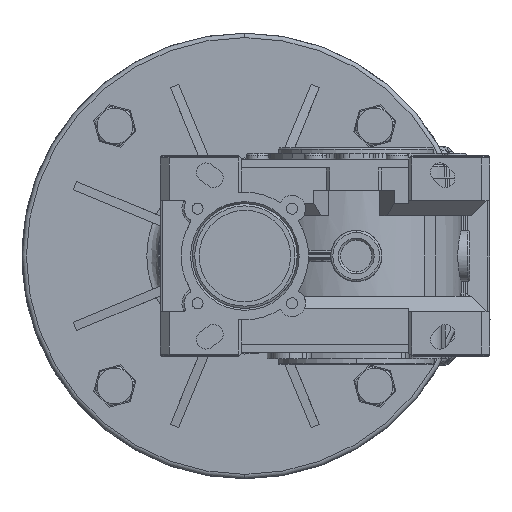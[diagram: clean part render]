
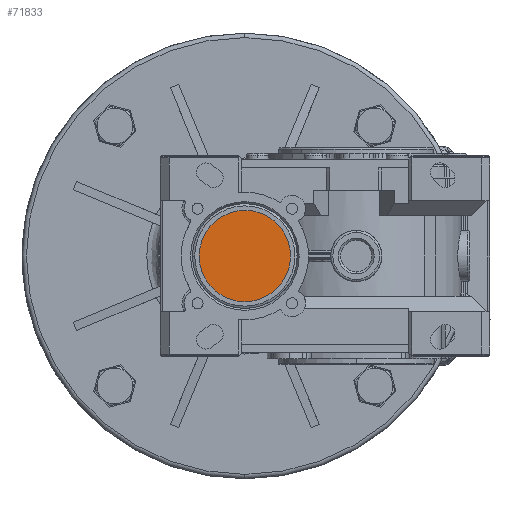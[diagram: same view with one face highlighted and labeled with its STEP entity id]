
A CAD part, left-side view. The second image highlights one B-rep face of the part: STEP entity #71833.
In plain terms, the highlighted planar face has unit normal (-1, 0, 0) as drawn and (0, 0, -1) by its records, which use the part's own axes.
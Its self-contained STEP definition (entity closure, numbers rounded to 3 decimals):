
#71345=CARTESIAN_POINT('',(8.848,4.007,0.5));
#71346=VERTEX_POINT('',#71345);
#71355=CARTESIAN_POINT('',(-32.152,4.007,0.5));
#71356=VERTEX_POINT('',#71355);
#71357=CARTESIAN_POINT('',(-11.652,4.007,0.5));
#71358=DIRECTION('',(0.0,0.0,-1.0));
#71359=DIRECTION('',(1.0,0.0,0.0));
#71360=AXIS2_PLACEMENT_3D('',#71357,#71358,#71359);
#71361=CIRCLE('',#71360,20.5);
#71362=EDGE_CURVE('',#71356,#71346,#71361,.T.);
#71814=CARTESIAN_POINT('',(-11.652,4.007,0.5));
#71815=DIRECTION('',(0.0,0.0,-1.0));
#71816=DIRECTION('',(1.0,0.0,0.0));
#71817=AXIS2_PLACEMENT_3D('',#71814,#71815,#71816);
#71818=CIRCLE('',#71817,20.5);
#71819=EDGE_CURVE('',#71346,#71356,#71818,.T.);
#71824=CARTESIAN_POINT('',(-11.652,4.007,0.5));
#71825=DIRECTION('',(0.0,0.0,1.0));
#71826=DIRECTION('',(1.0,0.0,0.0));
#71827=AXIS2_PLACEMENT_3D('',#71824,#71825,#71826);
#71828=PLANE('',#71827);
#71829=ORIENTED_EDGE('',*,*,#71362,.T.);
#71830=ORIENTED_EDGE('',*,*,#71819,.T.);
#71831=EDGE_LOOP('',(#71829,#71830));
#71832=FACE_OUTER_BOUND('',#71831,.T.);
#71833=ADVANCED_FACE('',(#71832),#71828,.F.);
